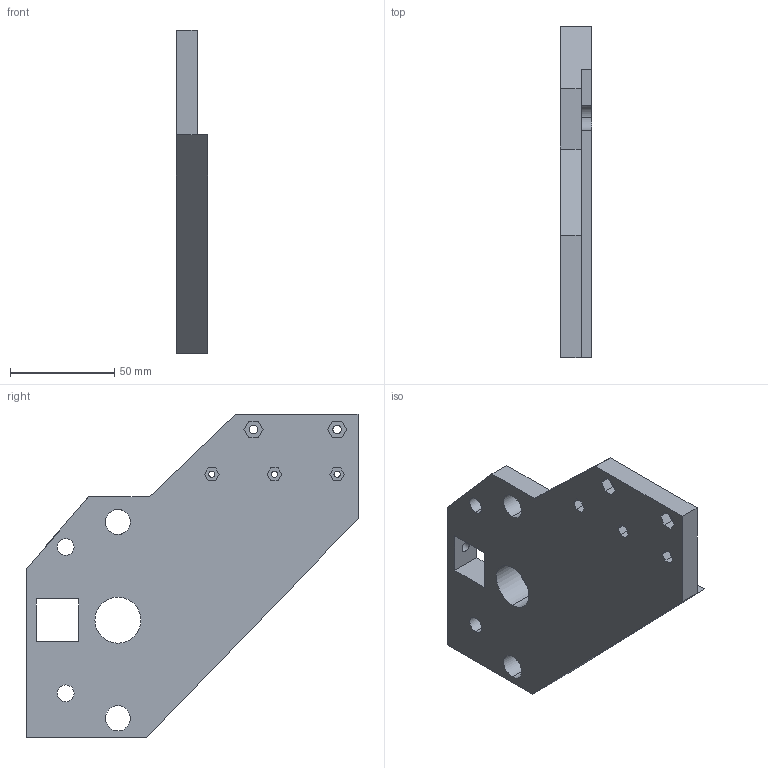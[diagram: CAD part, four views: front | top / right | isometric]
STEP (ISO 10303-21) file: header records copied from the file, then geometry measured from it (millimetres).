
FILE_DESCRIPTION (( 'STEP AP203' ), '1' );
FILE_NAME ('PORTAL motor 1RR.STEP', '2023-07-14T06:22:26', ( '' ), ( '' ), 'SwSTEP 2.0', 'SolidWorks 2014', '' );
FILE_SCHEMA (( 'CONFIG_CONTROL_DESIGN' ));
Length unit declared in the file: millimetre
Products named in the file (1): PORTAL motor 1RR
Bounding box: 15 x 158.93 x 154.83 mm (x, y, z)
Volume: 193913.1 mm3; surface area: 41357.7 mm2
Topology: 1 solids, 1 shells, 74 faces, 203 edges, 135 vertices
Faces by surface type: plane 52, cylinder 22
Entity records: 2470 total; most frequent: CARTESIAN_POINT 413, ORIENTED_EDGE 406, DIRECTION 399, EDGE_CURVE 203, LINE 157, VECTOR 157, VERTEX_POINT 135, AXIS2_PLACEMENT_3D 121
